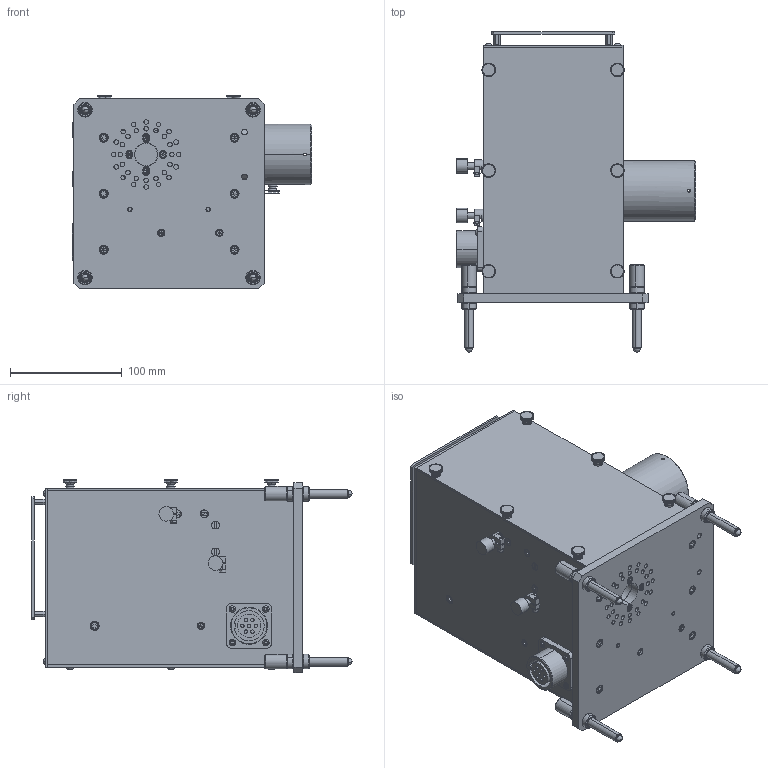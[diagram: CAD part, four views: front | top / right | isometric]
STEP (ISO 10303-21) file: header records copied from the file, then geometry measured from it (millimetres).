
FILE_DESCRIPTION (( 'STEP AP203' ), '1' );
FILE_NAME ('7ILX150Aë¯µÆ¹âÔ´.STEP', '2020-09-04T05:06:02', ( '' ), ( '' ), 'SwSTEP 2.0', 'SolidWorks 2018', '' );
FILE_SCHEMA (( 'CONFIG_CONTROL_DESIGN' ));
Length unit declared in the file: millimetre
Products named in the file (1): 7ILX150A諯腑嫖埭
Bounding box: 214 x 286 x 173 mm (x, y, z)
Surface area: 304391.1 mm2 (no closed solid volume)
Topology: 0 solids, 173 shells, 1400 faces, 4749 edges, 3213 vertices
Faces by surface type: plane 759, cylinder 424, cone 125, torus 56, sphere 36
Entity records: 51187 total; most frequent: CARTESIAN_POINT 9761, DIRECTION 9378, ORIENTED_EDGE 6962, EDGE_CURVE 4711, AXIS2_PLACEMENT_3D 3292, VERTEX_POINT 3205, VECTOR 2794, LINE 2794
